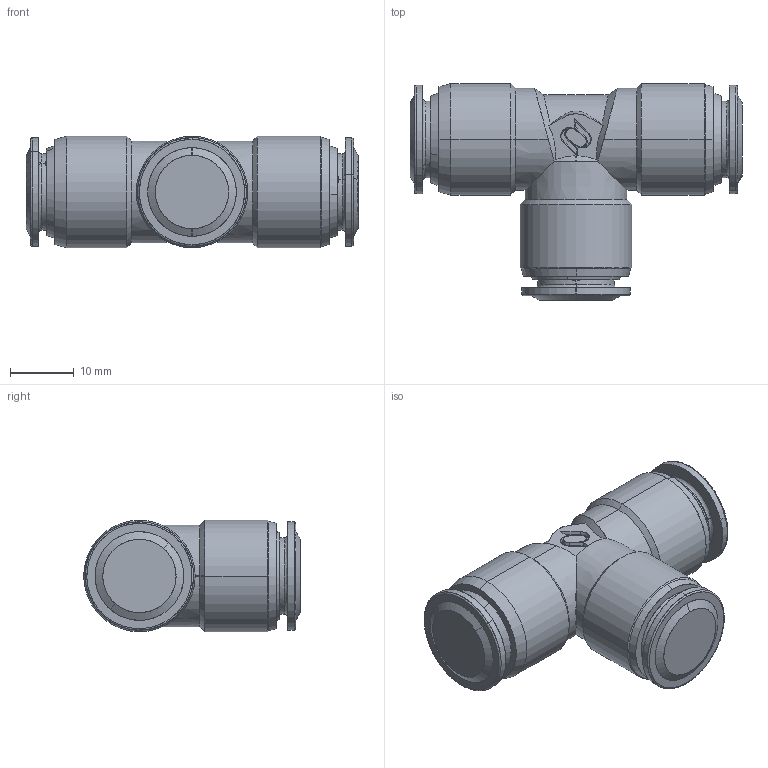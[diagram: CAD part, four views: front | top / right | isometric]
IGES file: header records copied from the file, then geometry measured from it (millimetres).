
Start section: SolidWorks IGES file using analytic representation for surfaces
Global section: file name: K:\Disegni Esecutivi\ALPHA TECHNOLOGIES\Assiemi-89000\89230\89230_iges\8923000005.igs; native system: SolidWorks 2011; preprocessor: SolidWorks 2011; author: cad05; date: 110221.101625; units: millimetre
Bounding box: 52.1 x 34 x 17.5 mm (x, y, z)
Surface area: 4824.9 mm2 (no closed solid volume)
Topology: 0 solids, 0 shells, 138 faces, 1871 edges, 1871 vertices
Faces by surface type: revolution 70, bspline 68
